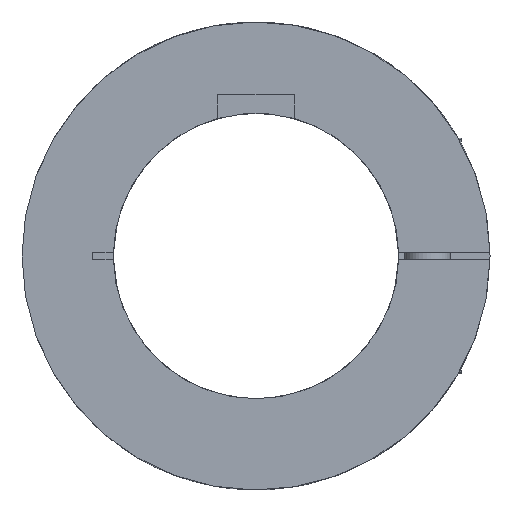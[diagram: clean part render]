
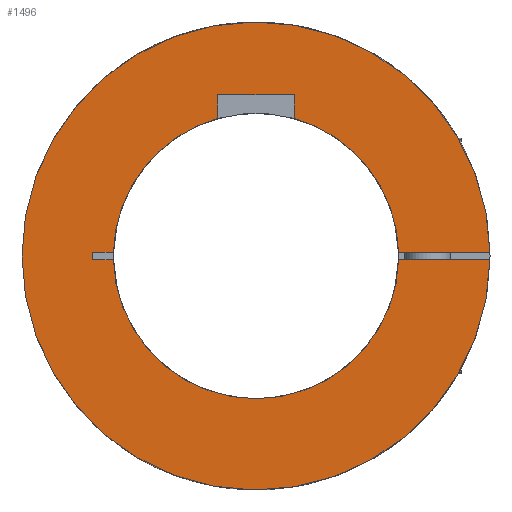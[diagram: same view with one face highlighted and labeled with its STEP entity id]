
A CAD part, left-side view. The second image highlights one B-rep face of the part: STEP entity #1496.
In plain terms, the highlighted planar face has unit normal (-1, 0, 0).
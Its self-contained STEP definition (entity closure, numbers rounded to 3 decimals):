
#33=PLANE('',#1701);
#140=LINE('',#2654,#251);
#143=LINE('',#2660,#254);
#144=LINE('',#2662,#255);
#155=LINE('',#2681,#266);
#158=LINE('',#2687,#269);
#168=LINE('',#2706,#279);
#172=LINE('',#2713,#283);
#177=LINE('',#2722,#288);
#251=VECTOR('',#2036,1.);
#254=VECTOR('',#2041,1.);
#255=VECTOR('',#2044,1.);
#266=VECTOR('',#2063,45.523);
#269=VECTOR('',#2070,45.523);
#279=VECTOR('',#2088,27.031);
#283=VECTOR('',#2094,27.031);
#288=VECTOR('',#2107,2.);
#394=FACE_OUTER_BOUND('',#490,.T.);
#490=EDGE_LOOP('',(#1265,#1266,#1267,#1268,#1269,#1270,#1271,#1272,#1273,
#1274,#1275,#1276));
#629=CIRCLE('',#1665,61.5);
#638=CIRCLE('',#1677,37.5);
#640=CIRCLE('',#1679,37.5);
#641=CIRCLE('',#1681,37.5);
#724=VERTEX_POINT('',#2590);
#725=VERTEX_POINT('',#2592);
#741=VERTEX_POINT('',#2627);
#742=VERTEX_POINT('',#2629);
#745=VERTEX_POINT('',#2635);
#746=VERTEX_POINT('',#2637);
#747=VERTEX_POINT('',#2641);
#748=VERTEX_POINT('',#2642);
#752=VERTEX_POINT('',#2652);
#754=VERTEX_POINT('',#2658);
#764=VERTEX_POINT('',#2705);
#766=VERTEX_POINT('',#2711);
#900=EDGE_CURVE('',#725,#724,#629,.T.);
#917=EDGE_CURVE('',#742,#741,#638,.T.);
#921=EDGE_CURVE('',#746,#745,#640,.T.);
#923=EDGE_CURVE('',#747,#748,#641,.T.);
#929=EDGE_CURVE('',#745,#752,#140,.T.);
#932=EDGE_CURVE('',#752,#754,#143,.T.);
#933=EDGE_CURVE('',#754,#742,#144,.T.);
#944=EDGE_CURVE('',#741,#725,#155,.T.);
#947=EDGE_CURVE('',#724,#747,#158,.T.);
#957=EDGE_CURVE('',#764,#746,#168,.T.);
#961=EDGE_CURVE('',#766,#748,#172,.T.);
#966=EDGE_CURVE('',#764,#766,#177,.T.);
#1265=ORIENTED_EDGE('',*,*,#917,.T.);
#1266=ORIENTED_EDGE('',*,*,#944,.T.);
#1267=ORIENTED_EDGE('',*,*,#900,.T.);
#1268=ORIENTED_EDGE('',*,*,#947,.T.);
#1269=ORIENTED_EDGE('',*,*,#923,.T.);
#1270=ORIENTED_EDGE('',*,*,#961,.F.);
#1271=ORIENTED_EDGE('',*,*,#966,.F.);
#1272=ORIENTED_EDGE('',*,*,#957,.T.);
#1273=ORIENTED_EDGE('',*,*,#921,.T.);
#1274=ORIENTED_EDGE('',*,*,#929,.T.);
#1275=ORIENTED_EDGE('',*,*,#932,.T.);
#1276=ORIENTED_EDGE('',*,*,#933,.T.);
#1496=ADVANCED_FACE('',(#394),#33,.T.);
#1665=AXIS2_PLACEMENT_3D('',#2593,#1983,#1984);
#1677=AXIS2_PLACEMENT_3D('',#2630,#2015,#2016);
#1679=AXIS2_PLACEMENT_3D('',#2638,#2021,#2022);
#1681=AXIS2_PLACEMENT_3D('',#2643,#2026,#2027);
#1701=AXIS2_PLACEMENT_3D('',#2723,#2108,#2109);
#1983=DIRECTION('center_axis',(-1.,0.,0.));
#1984=DIRECTION('ref_axis',(0.,1.,0.));
#2015=DIRECTION('center_axis',(1.,0.,0.));
#2016=DIRECTION('ref_axis',(0.,0.,1.));
#2021=DIRECTION('center_axis',(1.,0.,0.));
#2022=DIRECTION('ref_axis',(0.,0.,1.));
#2026=DIRECTION('center_axis',(1.,0.,0.));
#2027=DIRECTION('ref_axis',(0.,0.,1.));
#2036=DIRECTION('',(0.,0.,1.));
#2041=DIRECTION('',(0.,-1.,0.));
#2044=DIRECTION('',(0.,0.,-1.));
#2063=DIRECTION('',(0.,-1.,0.));
#2070=DIRECTION('',(0.,1.,0.));
#2088=DIRECTION('',(0.,-1.,0.));
#2094=DIRECTION('',(0.,-1.,0.));
#2107=DIRECTION('',(0.,0.,-1.));
#2108=DIRECTION('center_axis',(-1.,0.,0.));
#2109=DIRECTION('ref_axis',(0.,-1.,0.));
#2590=CARTESIAN_POINT('',(0.,-61.492,-1.));
#2592=CARTESIAN_POINT('',(0.,-61.492,1.));
#2593=CARTESIAN_POINT('Origin',(0.,0.,0.));
#2627=CARTESIAN_POINT('',(0.,-37.487,1.));
#2629=CARTESIAN_POINT('',(0.,-10.,36.142));
#2630=CARTESIAN_POINT('Origin',(0.,0.,0.));
#2635=CARTESIAN_POINT('',(0.,10.,36.142));
#2637=CARTESIAN_POINT('',(0.,37.487,1.));
#2638=CARTESIAN_POINT('Origin',(0.,0.,0.));
#2641=CARTESIAN_POINT('',(0.,-37.487,-1.));
#2642=CARTESIAN_POINT('',(0.,37.487,-1.));
#2643=CARTESIAN_POINT('Origin',(0.,0.,0.));
#2652=CARTESIAN_POINT('',(0.,10.,42.4));
#2654=CARTESIAN_POINT('',(0.,10.,2.6));
#2658=CARTESIAN_POINT('',(0.,-10.,42.4));
#2660=CARTESIAN_POINT('',(0.,0.,42.4));
#2662=CARTESIAN_POINT('',(0.,-10.,2.6));
#2681=CARTESIAN_POINT('',(0.,-15.969,1.));
#2687=CARTESIAN_POINT('',(0.,-61.492,-1.));
#2705=CARTESIAN_POINT('',(0.,43.,1.));
#2706=CARTESIAN_POINT('',(0.,43.,1.));
#2711=CARTESIAN_POINT('',(0.,43.,-1.));
#2713=CARTESIAN_POINT('',(0.,43.,-1.));
#2722=CARTESIAN_POINT('',(0.,43.,1.));
#2723=CARTESIAN_POINT('Origin',(0.,0.,-16.));
